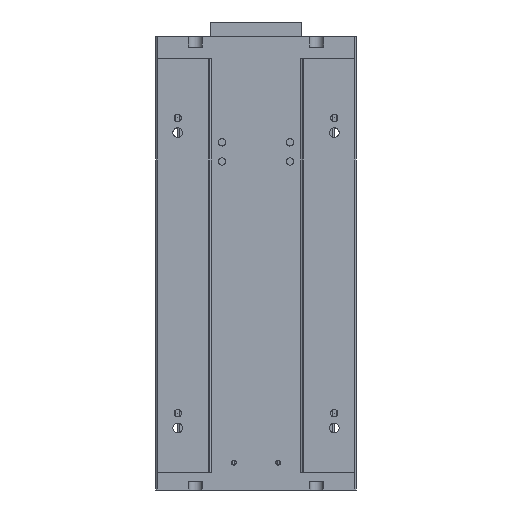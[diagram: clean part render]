
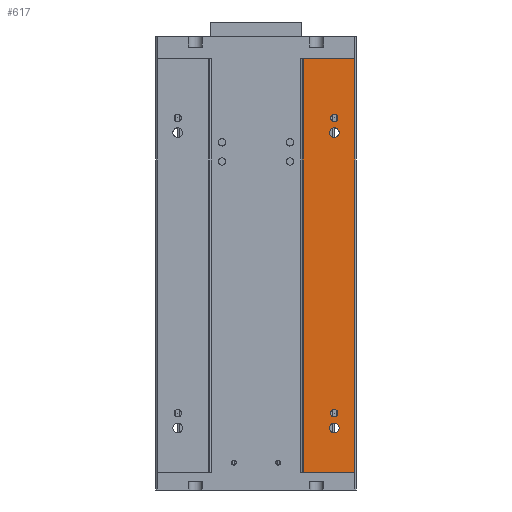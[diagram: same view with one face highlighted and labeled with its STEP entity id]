
A CAD part, front view. The second image highlights one B-rep face of the part: STEP entity #617.
In plain terms, the highlighted planar face has unit normal (0, -1, 0).
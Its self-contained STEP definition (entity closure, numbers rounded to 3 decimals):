
#541 = DIRECTION ( 'NONE',  ( 0., -1., 0. ) ) ;
#617 = ADVANCED_FACE ( 'NONE', ( #37226, #3661, #8567, #13534, #18501 ), #38466, .F. ) ;
#1089 = VECTOR ( 'NONE', #11250, 1000. ) ;
#1337 = ORIENTED_EDGE ( 'NONE', *, *, #3586, .F. ) ;
#1534 = CARTESIAN_POINT ( 'NONE',  ( 53., 0., -113.3 ) ) ;
#1549 = CARTESIAN_POINT ( 'NONE',  ( 67., 0., 140. ) ) ;
#3248 = DIRECTION ( 'NONE',  ( 0., 0., -1. ) ) ;
#3586 = EDGE_CURVE ( 'NONE', #19586, #23485, #14328, .T. ) ;
#3640 = AXIS2_PLACEMENT_3D ( 'NONE', #38156, #16348, #33149 ) ;
#3661 = FACE_BOUND ( 'NONE', #32823, .T. ) ;
#4183 = AXIS2_PLACEMENT_3D ( 'NONE', #19118, #33477, #27112 ) ;
#4230 = CARTESIAN_POINT ( 'NONE',  ( 32., 0., 140. ) ) ;
#4776 = AXIS2_PLACEMENT_3D ( 'NONE', #8168, #24878, #3248 ) ;
#4863 = DIRECTION ( 'NONE',  ( 0., 1., 0. ) ) ;
#5776 = VERTEX_POINT ( 'NONE', #14691 ) ;
#6141 = LINE ( 'NONE', #27848, #13045 ) ;
#6415 = VERTEX_POINT ( 'NONE', #9176 ) ;
#6862 = CIRCLE ( 'NONE', #23473, 3.3 ) ;
#6895 = DIRECTION ( 'NONE',  ( 0., 0., 1. ) ) ;
#7025 = EDGE_CURVE ( 'NONE', #37649, #19586, #6141, .T. ) ;
#7508 = CARTESIAN_POINT ( 'NONE',  ( 53., 0., 97.5 ) ) ;
#8168 = CARTESIAN_POINT ( 'NONE',  ( 53., 0., 100. ) ) ;
#8517 = EDGE_CURVE ( 'NONE', #20190, #6415, #11048, .T. ) ;
#8567 = FACE_BOUND ( 'NONE', #9581, .T. ) ;
#8625 = EDGE_CURVE ( 'NONE', #37434, #37649, #16188, .T. ) ;
#8827 = VERTEX_POINT ( 'NONE', #37479 ) ;
#8975 = AXIS2_PLACEMENT_3D ( 'NONE', #15305, #37116, #30194 ) ;
#9042 = VERTEX_POINT ( 'NONE', #16331 ) ;
#9176 = CARTESIAN_POINT ( 'NONE',  ( 53., 0., -106.7 ) ) ;
#9366 = DIRECTION ( 'NONE',  ( 0., 0., 1. ) ) ;
#9581 = EDGE_LOOP ( 'NONE', ( #34013, #15437 ) ) ;
#9855 = EDGE_LOOP ( 'NONE', ( #29133, #32323 ) ) ;
#10887 = EDGE_CURVE ( 'NONE', #26611, #8827, #11685, .T. ) ;
#11048 = CIRCLE ( 'NONE', #4183, 3.3 ) ;
#11139 = DIRECTION ( 'NONE',  ( -1., 0., 0. ) ) ;
#11250 = DIRECTION ( 'NONE',  ( 0., 0., -1. ) ) ;
#11396 = EDGE_CURVE ( 'NONE', #37434, #23485, #23382, .T. ) ;
#11685 = CIRCLE ( 'NONE', #4776, 2.5 ) ;
#11867 = ORIENTED_EDGE ( 'NONE', *, *, #14195, .F. ) ;
#11893 = CARTESIAN_POINT ( 'NONE',  ( 53., 0., 90. ) ) ;
#13045 = VECTOR ( 'NONE', #11139, 1000. ) ;
#13271 = DIRECTION ( 'NONE',  ( 0., -1., 0. ) ) ;
#13320 = EDGE_CURVE ( 'NONE', #19651, #5776, #25334, .T. ) ;
#13534 = FACE_BOUND ( 'NONE', #9855, .T. ) ;
#14083 = CIRCLE ( 'NONE', #20958, 2.5 ) ;
#14195 = EDGE_CURVE ( 'NONE', #35779, #9042, #14083, .T. ) ;
#14328 = LINE ( 'NONE', #31088, #33323 ) ;
#14691 = CARTESIAN_POINT ( 'NONE',  ( 53., 0., 86.7 ) ) ;
#14752 = CARTESIAN_POINT ( 'NONE',  ( 67., 0., -140. ) ) ;
#15268 = EDGE_LOOP ( 'NONE', ( #36891, #25187, #36692, #1337 ) ) ;
#15305 = CARTESIAN_POINT ( 'NONE',  ( 53., 0., 100. ) ) ;
#15437 = ORIENTED_EDGE ( 'NONE', *, *, #13320, .F. ) ;
#16188 = LINE ( 'NONE', #32996, #1089 ) ;
#16331 = CARTESIAN_POINT ( 'NONE',  ( 53., 0., -97.5 ) ) ;
#16348 = DIRECTION ( 'NONE',  ( 0., -1., 0. ) ) ;
#17274 = CARTESIAN_POINT ( 'NONE',  ( 53., 0., -110. ) ) ;
#18281 = ORIENTED_EDGE ( 'NONE', *, *, #29852, .F. ) ;
#18437 = CARTESIAN_POINT ( 'NONE',  ( -68., 0., 140. ) ) ;
#18501 = FACE_OUTER_BOUND ( 'NONE', #15268, .T. ) ;
#19106 = CARTESIAN_POINT ( 'NONE',  ( 32., 0., -140. ) ) ;
#19118 = CARTESIAN_POINT ( 'NONE',  ( 53., 0., -110. ) ) ;
#19586 = VERTEX_POINT ( 'NONE', #19106 ) ;
#19651 = VERTEX_POINT ( 'NONE', #24710 ) ;
#20190 = VERTEX_POINT ( 'NONE', #1534 ) ;
#20958 = AXIS2_PLACEMENT_3D ( 'NONE', #38180, #35655, #22575 ) ;
#21372 = CIRCLE ( 'NONE', #3640, 2.5 ) ;
#21527 = CIRCLE ( 'NONE', #28443, 3.3 ) ;
#21585 = CARTESIAN_POINT ( 'NONE',  ( -68., 0., -140. ) ) ;
#22198 = DIRECTION ( 'NONE',  ( 0., 0., 1. ) ) ;
#22549 = EDGE_CURVE ( 'NONE', #5776, #19651, #21527, .T. ) ;
#22575 = DIRECTION ( 'NONE',  ( 0., 0., -1. ) ) ;
#23382 = LINE ( 'NONE', #18437, #29905 ) ;
#23473 = AXIS2_PLACEMENT_3D ( 'NONE', #17274, #541, #22198 ) ;
#23485 = VERTEX_POINT ( 'NONE', #4230 ) ;
#24032 = AXIS2_PLACEMENT_3D ( 'NONE', #21585, #4863, #26531 ) ;
#24710 = CARTESIAN_POINT ( 'NONE',  ( 53., 0., 93.3 ) ) ;
#24878 = DIRECTION ( 'NONE',  ( 0., -1., 0. ) ) ;
#25187 = ORIENTED_EDGE ( 'NONE', *, *, #8625, .F. ) ;
#25334 = CIRCLE ( 'NONE', #32301, 3.3 ) ;
#26531 = DIRECTION ( 'NONE',  ( 0., 0., 1. ) ) ;
#26611 = VERTEX_POINT ( 'NONE', #7508 ) ;
#27112 = DIRECTION ( 'NONE',  ( 0., 0., 1. ) ) ;
#27380 = EDGE_LOOP ( 'NONE', ( #33527, #18281 ) ) ;
#27848 = CARTESIAN_POINT ( 'NONE',  ( -68., 0., -140. ) ) ;
#27862 = ORIENTED_EDGE ( 'NONE', *, *, #31899, .F. ) ;
#28443 = AXIS2_PLACEMENT_3D ( 'NONE', #30043, #13271, #35074 ) ;
#28608 = DIRECTION ( 'NONE',  ( 0., -1., 0. ) ) ;
#29133 = ORIENTED_EDGE ( 'NONE', *, *, #10887, .F. ) ;
#29852 = EDGE_CURVE ( 'NONE', #6415, #20190, #6862, .T. ) ;
#29905 = VECTOR ( 'NONE', #35294, 1000. ) ;
#30043 = CARTESIAN_POINT ( 'NONE',  ( 53., 0., 90. ) ) ;
#30194 = DIRECTION ( 'NONE',  ( 0., 0., -1. ) ) ;
#30551 = EDGE_CURVE ( 'NONE', #8827, #26611, #30708, .T. ) ;
#30708 = CIRCLE ( 'NONE', #8975, 2.5 ) ;
#31088 = CARTESIAN_POINT ( 'NONE',  ( 32., 0., 140. ) ) ;
#31899 = EDGE_CURVE ( 'NONE', #9042, #35779, #21372, .T. ) ;
#32301 = AXIS2_PLACEMENT_3D ( 'NONE', #11893, #28608, #6895 ) ;
#32323 = ORIENTED_EDGE ( 'NONE', *, *, #30551, .F. ) ;
#32823 = EDGE_LOOP ( 'NONE', ( #11867, #27862 ) ) ;
#32996 = CARTESIAN_POINT ( 'NONE',  ( 67., 0., 140. ) ) ;
#33149 = DIRECTION ( 'NONE',  ( 0., 0., -1. ) ) ;
#33323 = VECTOR ( 'NONE', #9366, 1000. ) ;
#33477 = DIRECTION ( 'NONE',  ( 0., -1., 0. ) ) ;
#33527 = ORIENTED_EDGE ( 'NONE', *, *, #8517, .F. ) ;
#33582 = CARTESIAN_POINT ( 'NONE',  ( 53., 0., -102.5 ) ) ;
#34013 = ORIENTED_EDGE ( 'NONE', *, *, #22549, .F. ) ;
#35074 = DIRECTION ( 'NONE',  ( 0., 0., 1. ) ) ;
#35294 = DIRECTION ( 'NONE',  ( -1., 0., 0. ) ) ;
#35655 = DIRECTION ( 'NONE',  ( 0., -1., 0. ) ) ;
#35779 = VERTEX_POINT ( 'NONE', #33582 ) ;
#36692 = ORIENTED_EDGE ( 'NONE', *, *, #11396, .T. ) ;
#36891 = ORIENTED_EDGE ( 'NONE', *, *, #7025, .F. ) ;
#37116 = DIRECTION ( 'NONE',  ( 0., -1., 0. ) ) ;
#37226 = FACE_BOUND ( 'NONE', #27380, .T. ) ;
#37434 = VERTEX_POINT ( 'NONE', #1549 ) ;
#37479 = CARTESIAN_POINT ( 'NONE',  ( 53., 0., 102.5 ) ) ;
#37649 = VERTEX_POINT ( 'NONE', #14752 ) ;
#38156 = CARTESIAN_POINT ( 'NONE',  ( 53., 0., -100. ) ) ;
#38180 = CARTESIAN_POINT ( 'NONE',  ( 53., 0., -100. ) ) ;
#38466 = PLANE ( 'NONE',  #24032 ) ;
